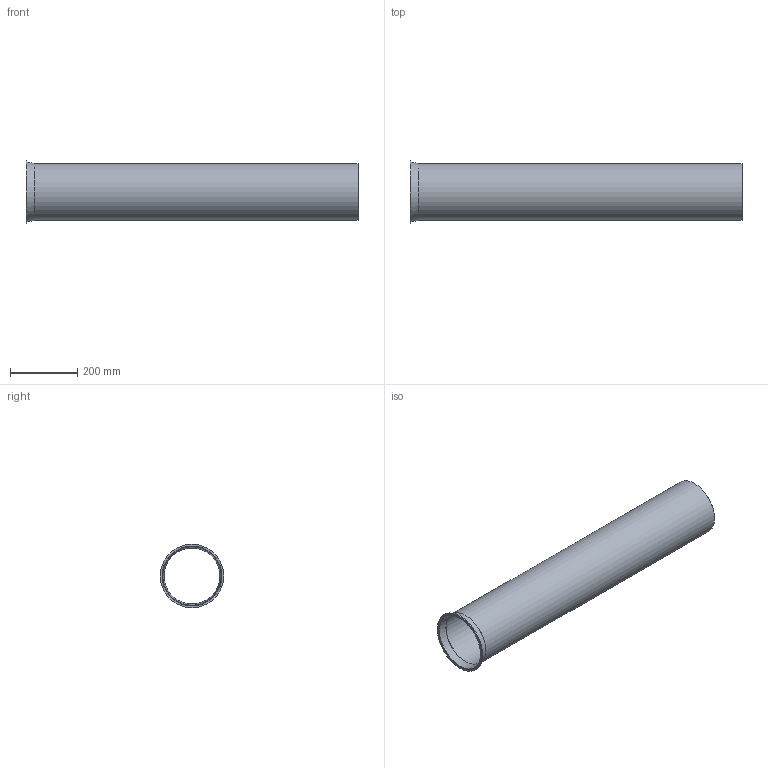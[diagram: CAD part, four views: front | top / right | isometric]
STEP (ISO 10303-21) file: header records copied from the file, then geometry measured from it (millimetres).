
FILE_DESCRIPTION((''),'2;1');
FILE_NAME('U:\Wolfgang\Marcel-3D\fertig\Kapitel 1\1711006.stp','2010-05-31T11:14:35',('TK2'),(''),'Autodesk Inventor 2010','Autodesk Inventor 2010','');
FILE_SCHEMA(('AUTOMOTIVE_DESIGN { 1 0 10303 214 1 1 1 1 }'));
Length unit declared in the file: millimetre
Products named in the file (1): 1711006
Bounding box: 991 x 190 x 190 mm (x, y, z)
Volume: 1053900 mm3; surface area: 1056138.6 mm2
Topology: 1 solids, 1 shells, 8 faces, 14 edges, 9 vertices
Faces by surface type: cylinder 3, plane 3, cone 2
Full cylindrical faces by diameter (mm): 166 x1, 170 x1, 190 x1
Entity records: 194 total; most frequent: DIRECTION 34, CARTESIAN_POINT 25, AXIS2_PLACEMENT_3D 17, ORIENTED_EDGE 16, EDGE_LOOP 16, VERTEX_POINT 8, CIRCLE 8, EDGE_CURVE 8
